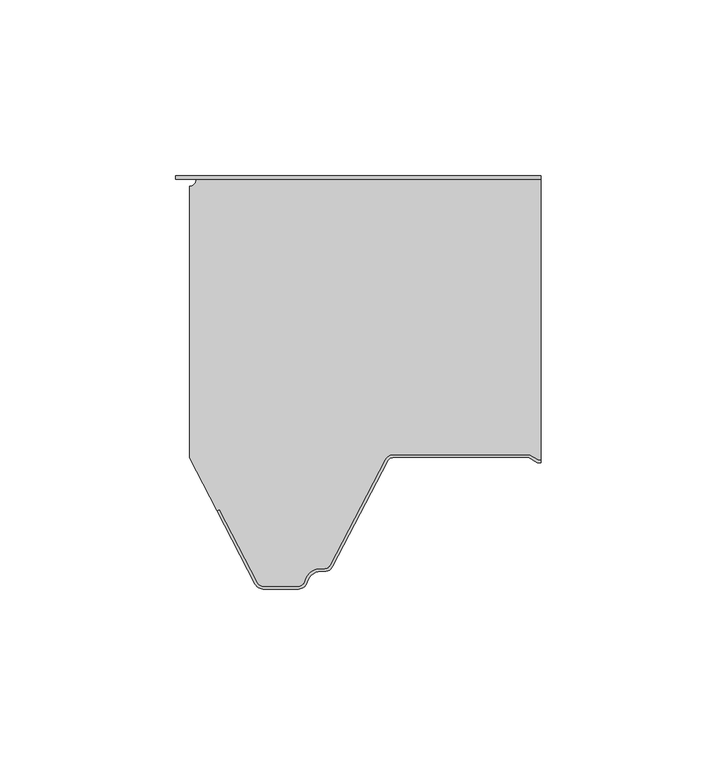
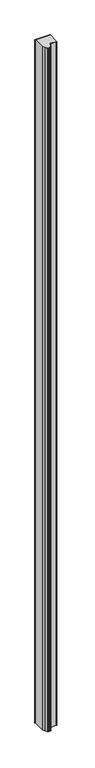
"""IFC4 building model written with IfcOpenShell, lengths in millimetres: plate geometry, Paneles-Sándwich-Madera_PALDR-H_Curtain-Panel : PALDR H 80/10."""

import ifcopenshell
import ifcopenshell.guid

model = None  # the IFC model being written
_history = None  # IfcOwnerHistory: only IFC2X3 demands one
_inside = {}  # id of a spatial element -> (the spatial element, [elements in it])
_under = {}  # id of a project, library or spatial element -> (it, [spatial elements below it])
_declared = {}  # id of a project -> (the project, [libraries it declares])
_typed = {}  # id of a type object -> (the type object, [elements of that type])
_made_of = {}  # id of a material, layer set ... -> (it, [elements and type objects made of it])


def new_model(schema):
    """Start an empty IFC model of exactly this schema.

    Asked for "IFC4X3", IfcOpenShell would pick the latest addendum, in which some entities
    have other attributes; the version numbers below select the first issue.
    IFC2X3 requires an IfcOwnerHistory on every rooted entity: one is made here for all.
    """
    global model, _history
    if schema == "IFC4X3":
        model = ifcopenshell.file(schema_version=(4, 3, 0, 0))
    else:
        model = ifcopenshell.file(schema=schema)
    _inside.clear()
    _under.clear()
    _declared.clear()
    _typed.clear()
    _made_of.clear()
    _history = None
    if model.schema == "IFC2X3":
        org = make("IfcOrganization", Name="unknown")
        user = make(
            "IfcPersonAndOrganization",
            ThePerson=make("IfcPerson", FamilyName="unknown"),
            TheOrganization=org,
        )
        app = make(
            "IfcApplication",
            ApplicationDeveloper=org,
            Version="unknown",
            ApplicationFullName="unknown",
            ApplicationIdentifier="unknown",
        )
        _history = make(
            "IfcOwnerHistory",
            OwningUser=user,
            OwningApplication=app,
            ChangeAction="ADDED",
            CreationDate=0,
        )
    return model


def make(cls, **values):
    """One entity of the class cls with the attributes given. An attribute that is None is left unset."""
    return model.create_entity(
        cls, **{name: value for name, value in values.items() if value is not None}
    )


def rooted(cls, **values):
    """An entity with a GlobalId (a new one), such as an element, a storey or a relation."""
    return make(cls, GlobalId=ifcopenshell.guid.new(), OwnerHistory=_history, **values)


def si_unit(unit_type, name, prefix=None):
    """IfcSIUnit, for example si_unit("LENGTHUNIT", "METRE", prefix="MILLI")."""
    return make("IfcSIUnit", UnitType=unit_type, Prefix=prefix, Name=name)


def assignment(units):
    """IfcUnitAssignment: the units of a project."""
    return None if units is None else make("IfcUnitAssignment", Units=units)


def point(xyz):
    """IfcCartesianPoint."""
    return None if xyz is None else make("IfcCartesianPoint", Coordinates=xyz)


def direction(xyz):
    """IfcDirection."""
    return None if xyz is None else make("IfcDirection", DirectionRatios=xyz)


def frame(location, z_axis=None, x_axis=None):
    """IfcAxis2Placement3D, a coordinate frame: its origin and axes. An axis left out is left unset."""
    return make(
        "IfcAxis2Placement3D",
        Location=point(location),
        Axis=direction(z_axis),
        RefDirection=direction(x_axis),
    )


def origin():
    """The frame at (0, 0, 0) with its axes left unset."""
    return frame((0.0, 0.0, 0.0))


def origin_with_axes():
    """The frame at (0, 0, 0) with the z axis (0, 0, 1) and the x axis (1, 0, 0) written out."""
    return frame((0.0, 0.0, 0.0), z_axis=(0.0, 0.0, 1.0), x_axis=(1.0, 0.0, 0.0))


def place(relative_to, where):
    """IfcLocalPlacement: puts the frame where relative to a parent placement (None: the world)."""
    return make(
        "IfcLocalPlacement", PlacementRelTo=relative_to, RelativePlacement=where
    )


def context(
    kind, dimensions, precision=None, world=None, true_north=None, identifier=None
):
    """IfcGeometricRepresentationContext, for example the 3D "Model" context."""
    return make(
        "IfcGeometricRepresentationContext",
        ContextIdentifier=identifier,
        ContextType=kind,
        CoordinateSpaceDimension=dimensions,
        Precision=precision,
        WorldCoordinateSystem=world,
        TrueNorth=true_north,
    )


def project(units=None, contexts=None):
    """IfcProject with its units and contexts."""
    return rooted(
        "IfcProject",
        Name="project",
        RepresentationContexts=contexts,
        UnitsInContext=assignment(units),
    )


def spatial(cls, under=None, at=None, **own):
    """A site, building, storey or space (cls), placed at a placement, below another one or the project."""
    s = rooted(cls, ObjectPlacement=at, **own)
    if under is not None:
        _under.setdefault(under.id(), (under, []))[1].append(s)
    return s


def polyline(points):
    """IfcPolyline through the points."""
    return make("IfcPolyline", Points=[point(p) for p in points])


def circle_curve(where, radius):
    """IfcCircle in the frame where."""
    return make("IfcCircle", Position=where, Radius=radius)


def outline(outer, holes=None, kind="AREA"):
    """IfcArbitraryClosedProfileDef: a profile drawn as a closed curve; with holes, ...WithVoids."""
    if holes is None:
        return make("IfcArbitraryClosedProfileDef", ProfileType=kind, OuterCurve=outer)
    return make(
        "IfcArbitraryProfileDefWithVoids",
        ProfileType=kind,
        OuterCurve=outer,
        InnerCurves=holes,
    )


def extrude(swept, where, along, depth):
    """IfcExtrudedAreaSolid: the profile swept, set in the frame where, extruded along a direction by depth."""
    return make(
        "IfcExtrudedAreaSolid",
        SweptArea=swept,
        Position=where,
        ExtrudedDirection=direction(along),
        Depth=depth,
    )


def shape(context_of_items, identifier, shape_type, items):
    """IfcShapeRepresentation: the items that make up one representation, for example the "Body"."""
    return make(
        "IfcShapeRepresentation",
        ContextOfItems=context_of_items,
        RepresentationIdentifier=identifier,
        RepresentationType=shape_type,
        Items=items,
    )


def source(mapping_origin, context_of_items, identifier, shape_type, items):
    """IfcRepresentationMap: a shape defined once, which mapped items show again and again."""
    return make(
        "IfcRepresentationMap",
        MappingOrigin=mapping_origin,
        MappedRepresentation=shape(context_of_items, identifier, shape_type, items),
    )


def transform(
    local_origin,
    x_axis=None,
    y_axis=None,
    z_axis=None,
    scale=None,
    scale2=None,
    scale3=None,
    uniform=True,
):
    """IfcCartesianTransformationOperator3D, or its non-uniform kind. x_axis, y_axis, z_axis: its Axis1, 2, 3."""
    if uniform:
        return make(
            "IfcCartesianTransformationOperator3D",
            Axis1=direction(x_axis),
            Axis2=direction(y_axis),
            LocalOrigin=point(local_origin),
            Scale=scale,
            Axis3=direction(z_axis),
        )
    return make(
        "IfcCartesianTransformationOperator3DnonUniform",
        Axis1=direction(x_axis),
        Axis2=direction(y_axis),
        LocalOrigin=point(local_origin),
        Scale=scale,
        Axis3=direction(z_axis),
        Scale2=scale2,
        Scale3=scale3,
    )


def mapped(mapping_source, mapping_target):
    """IfcMappedItem: shows the shape of a source again, moved by a transform."""
    return make(
        "IfcMappedItem", MappingSource=mapping_source, MappingTarget=mapping_target
    )


def made_of(thing, what):
    """Note that an element or type object is made of a material, layer set ...; save() writes the relation."""
    if what is not None:
        _made_of.setdefault(what.id(), (what, []))[1].append(thing)
    return thing


def element(
    cls,
    number,
    at=None,
    inside=None,
    cuts=None,
    type_object=None,
    material=None,
    context=None,
    identifier="Body",
    shape_type=None,
    held_by="IfcProductDefinitionShape",
    body=None,
    shapes=None,
    **own,
):
    """One element of the class cls, such as IfcWall. Its Tag is "e" and its number.

    at: its placement. inside: the storey or other place that contains it. cuts: it is an
    opening in that element (IfcRelVoidsElement). A single representation is given by context,
    identifier, shape_type and body (its items); several are given by shapes. held_by: the class
    of the entity that holds the representations. save() writes the other relations.
    """
    e = rooted(cls, Tag="e%d" % number, ObjectPlacement=at, **own)
    if body is not None:
        shapes = [shape(context, identifier, shape_type, body)]
    if shapes is not None:
        e.Representation = make(held_by, Representations=shapes)
    if inside is not None:
        _inside.setdefault(inside.id(), (inside, []))[1].append(e)
    if cuts is not None:
        rooted(
            "IfcRelVoidsElement", RelatingBuildingElement=cuts, RelatedOpeningElement=e
        )
    if type_object is not None:
        _typed.setdefault(type_object.id(), (type_object, []))[1].append(e)
    return made_of(e, material)


def aggregate(whole, parts):
    """IfcRelAggregates: a whole, such as a stair, and the parts it consists of."""
    return rooted("IfcRelAggregates", RelatingObject=whole, RelatedObjects=parts)


def save(model, path):
    """Write the relations noted so far, then the file.

    IfcRelAggregates (storeys below a building ...), IfcRelContainedInSpatialStructure (elements
    in a storey), IfcRelDefinesByType, IfcRelAssociatesMaterial and IfcRelDeclares: one each for
    every whole, place, type object, material and project.
    """
    for whole, parts in _under.values():
        aggregate(whole, parts)
    for where, things in _inside.values():
        rooted(
            "IfcRelContainedInSpatialStructure",
            RelatedElements=things,
            RelatingStructure=where,
        )
    for kind, things in _typed.values():
        rooted("IfcRelDefinesByType", RelatedObjects=things, RelatingType=kind)
    for what, things in _made_of.values():
        rooted("IfcRelAssociatesMaterial", RelatedObjects=things, RelatingMaterial=what)
    for by, libraries in _declared.values():
        rooted("IfcRelDeclares", RelatingContext=by, RelatedDefinitions=libraries)
    model.write(path)


def plane_surface(at):
    """IfcPlane: the flat surface through the origin of the frame at, square to its z axis."""
    return make("IfcPlane", Position=at)


def cylinder_surface(at, radius):
    """IfcCylindricalSurface: all points at the distance radius from the z axis of the frame at."""
    return make("IfcCylindricalSurface", Position=at, Radius=radius)


def revolved_surface(curve, axis_point, axis_direction):
    """IfcSurfaceOfRevolution: the curve turned about the line through axis_point along axis_direction."""
    return make(
        "IfcSurfaceOfRevolution",
        SweptCurve=make("IfcArbitraryOpenProfileDef", ProfileType="CURVE", Curve=curve),
        AxisPosition=make("IfcAxis1Placement", Location=point(axis_point), Axis=direction(axis_direction)),
    )


def advanced_brep(points, edges, surfaces, faces):
    """IfcAdvancedBrep: a solid bounded by faces that lie on surfaces and meet in shared edges.

    An edge is (start, end): straight between two places in points (the first is 0);
    or (start, end, curve); or (start, end, curve, False) where it runs against its curve.
    A face is (place in surfaces, loops), or (place, loops, False) where it looks against
    its surface's normal. A loop lists edges by number (the first is 1), with a minus sign
    where the edge is run from its end to its start. The first loop is the outer one.
    """
    corners = [point(p) for p in points]
    vertices = [make("IfcVertexPoint", VertexGeometry=c) for c in corners]
    made = []
    for start, end, *more in edges:
        made.append(
            make(
                "IfcEdgeCurve",
                EdgeStart=vertices[start],
                EdgeEnd=vertices[end],
                EdgeGeometry=more[0] if more else make("IfcPolyline", Points=[corners[start], corners[end]]),
                SameSense=more[1] if len(more) > 1 else True,
            )
        )
    hull = []
    for where, loops, *sense in faces:
        bounds = []
        for j, loop in enumerate(loops):
            ring = [make("IfcOrientedEdge", EdgeElement=made[abs(k) - 1], Orientation=k > 0) for k in loop]
            bounds.append(
                make(
                    "IfcFaceOuterBound" if j == 0 else "IfcFaceBound",
                    Bound=make("IfcEdgeLoop", EdgeList=ring),
                    Orientation=True,
                )
            )
        hull.append(make("IfcAdvancedFace", Bounds=bounds, FaceSurface=surfaces[where], SameSense=sense[0] if sense else True))
    return make("IfcAdvancedBrep", Outer=make("IfcClosedShell", CfsFaces=hull))


def plate_013d1d16(model_context):
    return source(origin(), model_context, "Body", "SolidModel", [
        extrude(outline(polyline([(-53.88, -1.0), (-53.88, 0.0), (50.0, 0.0), (50.0, -1.0), (-53.88, -1.0)])), origin_with_axes(), (0.0, 0.0, 1.0), 5000.0),
        advanced_brep(
        [(-30.6207387, -115.6314818, 0.0), (-41.4414179, -94.855778, 0.0), (-42.1509492, -95.2253256, 0.0), (-50.0, -80.1551481, 0.0), (-50.0, -2.95, 0.0), (-48.05, -1.0, 0.0), (50.0, -1.0, 0.0), (50.0, -80.7, 0.0), (49.2107961, -80.7, 0.0), (46.6127185, -79.2, 0.0), (8.090871, -79.2, 0.0), (5.6075115, -80.7065836, 0.0), (-9.9783733, -110.6314825, 0.0), (-11.574819, -111.6, 0.0), (-12.6272901, -111.6, 0.0), (-17.2841077, -115.2363636, 0.0), (-19.030414, -116.5999997, 0.0), (-29.024293, -116.5999997, 0.0), (-30.6207383, -115.6314813, 5000.0), (-29.024293, -116.5999997, 5000.0), (-19.030414, -116.5999997, 5000.0), (-17.2841077, -115.2363636, 5000.0), (-12.6272901, -111.6, 5000.0), (-11.574819, -111.6, 5000.0), (-9.9783737, -110.631482, 5000.0), (5.6075107, -80.7065835, 5000.0), (8.090871, -79.2, 5000.0), (46.6127185, -79.2, 5000.0), (49.2107961, -80.7, 5000.0), (50.0, -80.7, 5000.0), (50.0, -1.0, 5000.0), (-48.05, -1.0, 5000.0), (-50.0, -2.95, 5000.0), (-50.0, -80.1551481, 5000.0), (-42.1509492, -95.2253256, 5000.0), (-41.4414179, -94.855778, 5000.0)],
        [
            (0, 1),
            (1, 2),
            (2, 3),
            (3, 4),
            (4, 5, circle_curve(frame((-50.0, -1.0, 0.0), z_axis=(0.0, 0.0, 1.0), x_axis=(-1.0, 0.0, 0.0)), 1.95)),
            (5, 6),
            (6, 7),
            (7, 8),
            (8, 9),
            (9, 10),
            (10, 11, circle_curve(frame((8.090871, -82.0, 0.0), z_axis=(0.0, 0.0, 1.0), x_axis=(-1.0, 0.0, 0.0)), 2.8)),
            (11, 12),
            (12, 13, circle_curve(frame((-11.574819, -109.8, 0.0), z_axis=(0.0, 0.0, -1.0), x_axis=(-1.0, 0.0, 0.0)), 1.8)),
            (13, 14),
            (14, 15, circle_curve(frame((-12.6272901, -116.4, 0.0), z_axis=(0.0, 0.0, 1.0), x_axis=(-1.0, 0.0, 0.0)), 4.8)),
            (15, 16, circle_curve(frame((-19.030414, -114.8, 0.0), z_axis=(0.0, 0.0, -1.0), x_axis=(-1.0, 0.0, 0.0)), 1.7999997)),
            (16, 17),
            (17, 0, circle_curve(frame((-29.024293, -114.8, 0.0), z_axis=(0.0, 0.0, -1.0), x_axis=(-1.0, 0.0, 0.0)), 1.7999997)),
            (18, 19, circle_curve(frame((-29.024293, -114.8, 5000.0), z_axis=(0.0, 0.0, 1.0), x_axis=(-1.0, 0.0, 0.0)), 1.7999997)),
            (19, 20),
            (20, 21, circle_curve(frame((-19.030414, -114.8, 5000.0), z_axis=(0.0, 0.0, 1.0), x_axis=(-1.0, 0.0, 0.0)), 1.7999997)),
            (21, 22, circle_curve(frame((-12.6272901, -116.4, 5000.0), z_axis=(0.0, 0.0, -1.0), x_axis=(-1.0, 0.0, 0.0)), 4.8)),
            (22, 23),
            (23, 24, circle_curve(frame((-11.574819, -109.8, 5000.0), z_axis=(0.0, 0.0, 1.0), x_axis=(-1.0, 0.0, 0.0)), 1.8)),
            (24, 25),
            (25, 26, circle_curve(frame((8.090871, -82.0, 5000.0), z_axis=(0.0, 0.0, -1.0), x_axis=(-1.0, 0.0, 0.0)), 2.8)),
            (26, 27),
            (27, 28),
            (28, 29),
            (29, 30),
            (30, 31),
            (31, 32, circle_curve(frame((-50.0, -1.0, 5000.0), z_axis=(0.0, 0.0, -1.0), x_axis=(-1.0, 0.0, 0.0)), 1.95)),
            (32, 33),
            (33, 34),
            (34, 35),
            (35, 18),
            (0, 18),
            (35, 1),
            (34, 2),
            (33, 3),
            (32, 4),
            (5, 31),
            (30, 6),
            (28, 8),
            (7, 29),
            (27, 9),
            (26, 10),
            (25, 11),
            (24, 12),
            (23, 13),
            (22, 14),
            (21, 15),
            (20, 16),
            (19, 17),
        ],
        [
            plane_surface(frame((-50.0, 0.0, 0.0), z_axis=(0.0, 0.0, -1.0), x_axis=(0.0, 1.0, 0.0))),
            plane_surface(frame((-50.0, 0.0, 5000.0), z_axis=(0.0, 0.0, 1.0), x_axis=(0.0, 1.0, 0.0))),
            plane_surface(frame((-30.6207387, -115.6314818, 0.0), z_axis=(-0.8869140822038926, -0.4619344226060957, 0.0), x_axis=(0.0, 0.0, 1.0))),
            plane_surface(frame((-41.4414179, -94.855778, 0.0), z_axis=(0.4619344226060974, -0.8869140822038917, 0.0), x_axis=(0.0, 0.0, 1.0))),
            plane_surface(frame((-42.1509492, -95.2253256, 0.0), z_axis=(-0.8869140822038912, -0.46193442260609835, 0.0), x_axis=(0.0, 0.0, 1.0))),
            plane_surface(frame((-50.0, -80.1551481, 0.0), z_axis=(-1.0, 0.0, 0.0), x_axis=(0.0, 0.0, 1.0))),
            plane_surface(frame((-48.05, -1.0, 0.0), z_axis=(0.0, 1.0, 0.0), x_axis=(0.0, 0.0, 1.0))),
            plane_surface(frame((81.5859248, -80.7, 0.0), z_axis=(0.0, -1.0, 0.0), x_axis=(0.0, 0.0, 1.0))),
            plane_surface(frame((49.2107961, -80.7, 0.0), z_axis=(-0.49999979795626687, -0.866025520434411, 0.0), x_axis=(0.0, 0.0, 1.0))),
            plane_surface(frame((46.6127185, -79.2, 0.0), z_axis=(0.0, -1.0, 0.0), x_axis=(0.0, 0.0, 1.0))),
            revolved_surface(polyline([(5.290871, -82.0, 5000.0), (5.290871, -82.0, 0.0)]), (8.090871, -82.0, 0.0), (0.0, 0.0, 1.0)),
            plane_surface(frame((5.6075107, -80.7065835, 0.0), z_axis=(0.8869140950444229, -0.4619343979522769, 0.0), x_axis=(0.0, 0.0, 1.0))),
            cylinder_surface(frame((-11.574819, -109.8, 0.0), z_axis=(0.0, 0.0, -1.0), x_axis=(-1.0, 0.0, 0.0)), 1.8),
            plane_surface(frame((-11.574819, -111.6, 0.0), z_axis=(0.0, -1.0, 0.0), x_axis=(0.0, 0.0, 1.0))),
            revolved_surface(polyline([(-17.4272901, -116.4, 5000.0), (-17.4272901, -116.4, 0.0)]), (-12.6272901, -116.4, 0.0), (0.0, 0.0, 1.0)),
            cylinder_surface(frame((-19.030414, -114.8, 0.0), z_axis=(0.0, 0.0, -1.0), x_axis=(-1.0, 0.0, 0.0)), 1.7999997),
            plane_surface(frame((-19.030414, -116.5999997, 0.0), z_axis=(0.0, -1.0, 0.0), x_axis=(0.0, 0.0, 1.0))),
            cylinder_surface(frame((-29.024293, -114.8, 0.0), z_axis=(0.0, 0.0, -1.0), x_axis=(-1.0, 0.0, 0.0)), 1.7999997),
            revolved_surface(polyline([(-51.95, -1.0, 5000.0), (-51.95, -1.0, 0.0)]), (-50.0, -1.0, 0.0), (0.0, 0.0, 1.0)),
            plane_surface(frame((50.0, 0.0, 5000.0), z_axis=(1.0, 0.0, 0.0), x_axis=(0.0, 0.0, -1.0))),
        ],
        [
            (0, [[1, 2, 3, 4, 5, 6, 7, 8, 9, 10, 11, 12, 13, 14, 15, 16, 17, 18]]),
            (1, [[19, 20, 21, 22, 23, 24, 25, 26, 27, 28, 29, 30, 31, 32, 33, 34, 35, 36]]),
            (2, [[-1, 37, -36, 38]]),
            (3, [[-2, -38, -35, 39]]),
            (4, [[-3, -39, -34, 40]]),
            (5, [[-4, -40, -33, 41]]),
            (6, [[42, -31, 43, -6]]),
            (7, [[44, -8, 45, -29]]),
            (8, [[-9, -44, -28, 46]]),
            (9, [[-10, -46, -27, 47]]),
            (10, [[-11, -47, -26, 48]]),
            (11, [[-12, -48, -25, 49]]),
            (12, [[-13, -49, -24, 50]]),
            (13, [[-14, -50, -23, 51]]),
            (14, [[-15, -51, -22, 52]]),
            (15, [[-16, -52, -21, 53]]),
            (16, [[-17, -53, -20, 54]]),
            (17, [[-18, -54, -19, -37]]),
            (18, [[-5, -41, -32, -42]]),
            (19, [[-7, -43, -30, -45]]),
        ],
    ),
        advanced_brep(
        [(49.2107962, -80.7, 5000.0), (46.6127186, -79.2, 5000.0), (8.090871, -79.2, 5000.0), (5.6075116, -80.7065836, 5000.0), (-9.9783733, -110.6314825, 5000.0), (-11.574819, -111.6, 5000.0), (-12.62729, -111.6, 5000.0), (-17.2841076, -115.2363636, 5000.0), (-19.030414, -116.6, 5000.0), (-29.024293, -116.6, 5000.0), (-30.6207383, -115.631482, 5000.0), (-41.4404688, -94.8576004, 5000.0), (-42.15, -95.227148, 5000.0), (-31.33027, -116.00103, 5000.0), (-29.024293, -117.4, 5000.0), (-19.030414, -117.4, 5000.0), (-16.5079711, -115.4303031, 5000.0), (-12.62729, -112.4, 5000.0), (-11.574819, -112.4, 5000.0), (-9.2688424, -111.0010295, 5000.0), (6.317042, -81.076131, 5000.0), (8.090871, -80.0, 5000.0), (46.3983593, -80.0, 5000.0), (48.9964369, -81.5, 5000.0), (50.0, -81.5, 5000.0), (50.0, -80.7, 5000.0), (48.9964369, -81.5, 0.0), (46.3983593, -80.0, 0.0), (8.090871, -80.0, 0.0), (6.3170428, -81.0761312, 0.0), (-9.268842, -111.00103, 0.0), (-11.574819, -112.4, 0.0), (-12.62729, -112.4, 0.0), (-16.5079713, -115.430303, 0.0), (-19.030414, -117.4, 0.0), (-29.024293, -117.4, 0.0), (-31.3302696, -116.0010295, 0.0), (-42.15, -95.227148, 0.0), (-41.4404688, -94.8576004, 0.0), (-30.6207387, -115.6314825, 0.0), (-29.024293, -116.6, 0.0), (-19.030414, -116.6, 0.0), (-17.2841074, -115.2363637, 0.0), (-12.62729, -111.6, 0.0), (-11.574819, -111.6, 0.0), (-9.9783737, -110.631482, 0.0), (5.6075107, -80.7065835, 0.0), (8.090871, -79.2, 0.0), (46.6127186, -79.2, 0.0), (49.2107962, -80.7, 0.0), (50.0, -80.7, 0.0), (50.0, -81.5, 0.0)],
        [
            (0, 1),
            (1, 2),
            (2, 3, circle_curve(frame((8.090871, -82.0, 5000.0), z_axis=(0.0, 0.0, 1.0), x_axis=(1.0, 0.0, 0.0)), 2.8)),
            (3, 4),
            (4, 5, circle_curve(frame((-11.574819, -109.8, 5000.0), z_axis=(0.0, 0.0, -1.0), x_axis=(1.0, 0.0, 0.0)), 1.8)),
            (5, 6),
            (6, 7, circle_curve(frame((-12.62729, -116.4, 5000.0), z_axis=(0.0, 0.0, 1.0), x_axis=(1.0, 0.0, 0.0)), 4.8)),
            (7, 8, circle_curve(frame((-19.030414, -114.8, 5000.0), z_axis=(0.0, 0.0, -1.0), x_axis=(1.0, 0.0, 0.0)), 1.8)),
            (8, 9),
            (9, 10, circle_curve(frame((-29.024293, -114.8, 5000.0), z_axis=(0.0, 0.0, -1.0), x_axis=(1.0, 0.0, 0.0)), 1.8)),
            (10, 11),
            (11, 12),
            (12, 13),
            (13, 14, circle_curve(frame((-29.024293, -114.8, 5000.0), z_axis=(0.0, 0.0, 1.0), x_axis=(1.0, 0.0, 0.0)), 2.6)),
            (14, 15),
            (15, 16, circle_curve(frame((-19.030414, -114.8, 5000.0), z_axis=(0.0, 0.0, 1.0), x_axis=(1.0, 0.0, 0.0)), 2.6)),
            (16, 17, circle_curve(frame((-12.62729, -116.4, 5000.0), z_axis=(0.0, 0.0, -1.0), x_axis=(1.0, 0.0, 0.0)), 4.0)),
            (17, 18),
            (18, 19, circle_curve(frame((-11.574819, -109.8, 5000.0), z_axis=(0.0, 0.0, 1.0), x_axis=(1.0, 0.0, 0.0)), 2.6)),
            (19, 20),
            (20, 21, circle_curve(frame((8.090871, -82.0, 5000.0), z_axis=(0.0, 0.0, -1.0), x_axis=(1.0, 0.0, 0.0)), 2.0)),
            (21, 22),
            (22, 23),
            (23, 24),
            (24, 25),
            (25, 0),
            (26, 27),
            (27, 28),
            (28, 29, circle_curve(frame((8.090871, -82.0, 0.0), z_axis=(0.0, 0.0, 1.0), x_axis=(1.0, 0.0, 0.0)), 2.0)),
            (29, 30),
            (30, 31, circle_curve(frame((-11.574819, -109.8, 0.0), z_axis=(0.0, 0.0, -1.0), x_axis=(1.0, 0.0, 0.0)), 2.6)),
            (31, 32),
            (32, 33, circle_curve(frame((-12.62729, -116.4, 0.0), z_axis=(0.0, 0.0, 1.0), x_axis=(1.0, 0.0, 0.0)), 4.0)),
            (33, 34, circle_curve(frame((-19.030414, -114.8, 0.0), z_axis=(0.0, 0.0, -1.0), x_axis=(1.0, 0.0, 0.0)), 2.6)),
            (34, 35),
            (35, 36, circle_curve(frame((-29.024293, -114.8, 0.0), z_axis=(0.0, 0.0, -1.0), x_axis=(1.0, 0.0, 0.0)), 2.6)),
            (36, 37),
            (37, 38),
            (38, 39),
            (39, 40, circle_curve(frame((-29.024293, -114.8, 0.0), z_axis=(0.0, 0.0, 1.0), x_axis=(1.0, 0.0, 0.0)), 1.8)),
            (40, 41),
            (41, 42, circle_curve(frame((-19.030414, -114.8, 0.0), z_axis=(0.0, 0.0, 1.0), x_axis=(1.0, 0.0, 0.0)), 1.8)),
            (42, 43, circle_curve(frame((-12.62729, -116.4, 0.0), z_axis=(0.0, 0.0, -1.0), x_axis=(1.0, 0.0, 0.0)), 4.8)),
            (43, 44),
            (44, 45, circle_curve(frame((-11.574819, -109.8, 0.0), z_axis=(0.0, 0.0, 1.0), x_axis=(1.0, 0.0, 0.0)), 1.8)),
            (45, 46),
            (46, 47, circle_curve(frame((8.090871, -82.0, 0.0), z_axis=(0.0, 0.0, -1.0), x_axis=(1.0, 0.0, 0.0)), 2.8)),
            (47, 48),
            (48, 49),
            (49, 50),
            (50, 51),
            (51, 26),
            (49, 0),
            (25, 50),
            (48, 1),
            (47, 2),
            (46, 3),
            (45, 4),
            (44, 5),
            (43, 6),
            (42, 7),
            (41, 8),
            (40, 9),
            (39, 10),
            (38, 11),
            (37, 12),
            (36, 13),
            (35, 14),
            (34, 15),
            (33, 16),
            (32, 17),
            (31, 18),
            (30, 19),
            (29, 20),
            (28, 21),
            (27, 22),
            (26, 23),
            (51, 24),
        ],
        [
            plane_surface(frame((-50.0, -80.0, 5000.0), z_axis=(0.0, 0.0, 1.0), x_axis=(0.0, 1.0, 0.0))),
            plane_surface(frame((-50.0, -80.0, 0.0), z_axis=(0.0, 0.0, -1.0), x_axis=(0.0, 1.0, 0.0))),
            plane_surface(frame((81.5859248, -80.7, 5000.0), z_axis=(0.0, 1.0, 0.0), x_axis=(0.0, 0.0, -1.0))),
            plane_surface(frame((49.2107962, -80.7, 5000.0), z_axis=(0.4999997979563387, 0.8660255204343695, 0.0), x_axis=(0.0, 0.0, -1.0))),
            plane_surface(frame((46.6127186, -79.2, 5000.0), z_axis=(0.0, 1.0, 0.0), x_axis=(0.0, 0.0, -1.0))),
            cylinder_surface(frame((8.090871, -82.0, 5000.0), z_axis=(0.0, 0.0, 1.0), x_axis=(1.0, 0.0, 0.0)), 2.8),
            plane_surface(frame((5.6075107, -80.7065835, 5000.0), z_axis=(-0.8869140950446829, 0.4619343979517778, 0.0), x_axis=(0.0, 0.0, -1.0))),
            revolved_surface(polyline([(-9.774818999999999, -109.8, 0.0), (-9.774818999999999, -109.8, 5000.0)]), (-11.574819, -109.8, 5000.0), (0.0, 0.0, -1.0)),
            plane_surface(frame((-11.574819, -111.6, 5000.0), z_axis=(0.0, 1.0, 0.0), x_axis=(0.0, 0.0, -1.0))),
            cylinder_surface(frame((-12.62729, -116.4, 5000.0), z_axis=(0.0, 0.0, 1.0), x_axis=(1.0, 0.0, 0.0)), 4.8),
            revolved_surface(polyline([(-17.230414, -114.8, 0.0), (-17.230414, -114.8, 5000.0)]), (-19.030414, -114.8, 5000.0), (0.0, 0.0, -1.0)),
            plane_surface(frame((-19.030414, -116.6, 5000.0), z_axis=(0.0, 1.0, 0.0), x_axis=(0.0, 0.0, -1.0))),
            revolved_surface(polyline([(-27.224293, -114.8, 0.0), (-27.224293, -114.8, 5000.0)]), (-29.024293, -114.8, 5000.0), (0.0, 0.0, -1.0)),
            plane_surface(frame((-30.6207387, -115.6314825, 5000.0), z_axis=(0.8869140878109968, 0.46193441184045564, 0.0), x_axis=(0.0, 0.0, -1.0))),
            plane_surface(frame((-41.4404688, -94.8576004, 5000.0), z_axis=(-0.46193450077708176, 0.8869140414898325, 0.0), x_axis=(0.0, 0.0, -1.0))),
            plane_surface(frame((-42.15, -95.227148, 5000.0), z_axis=(-0.8869140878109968, -0.46193441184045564, 0.0), x_axis=(0.0, 0.0, -1.0))),
            cylinder_surface(frame((-29.024293, -114.8, 5000.0), z_axis=(0.0, 0.0, 1.0), x_axis=(1.0, 0.0, 0.0)), 2.6),
            plane_surface(frame((-29.024293, -117.4, 5000.0), z_axis=(0.0, -1.0, 0.0), x_axis=(0.0, 0.0, -1.0))),
            cylinder_surface(frame((-19.030414, -114.8, 5000.0), z_axis=(0.0, 0.0, 1.0), x_axis=(1.0, 0.0, 0.0)), 2.6),
            revolved_surface(polyline([(-8.62729, -116.4, 0.0), (-8.62729, -116.4, 5000.0)]), (-12.62729, -116.4, 5000.0), (0.0, 0.0, -1.0)),
            plane_surface(frame((-12.62729, -112.4, 5000.0), z_axis=(0.0, -1.0, 0.0), x_axis=(0.0, 0.0, -1.0))),
            cylinder_surface(frame((-11.574819, -109.8, 5000.0), z_axis=(0.0, 0.0, 1.0), x_axis=(1.0, 0.0, 0.0)), 2.6),
            plane_surface(frame((-9.268842, -111.00103, 5000.0), z_axis=(0.8869140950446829, -0.4619343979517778, 0.0), x_axis=(0.0, 0.0, -1.0))),
            revolved_surface(polyline([(10.090871, -82.0, 0.0), (10.090871, -82.0, 5000.0)]), (8.090871, -82.0, 5000.0), (0.0, 0.0, -1.0)),
            plane_surface(frame((8.090871, -80.0, 5000.0), z_axis=(0.0, -1.0, 0.0), x_axis=(0.0, 0.0, -1.0))),
            plane_surface(frame((46.3983593, -80.0, 5000.0), z_axis=(-0.4999997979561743, -0.8660255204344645, 0.0), x_axis=(0.0, 0.0, -1.0))),
            plane_surface(frame((48.9964369, -81.5, 5000.0), z_axis=(0.0, -1.0, 0.0), x_axis=(0.0, 0.0, -1.0))),
            plane_surface(frame((50.0, 0.0, 5000.0), z_axis=(1.0, 0.0, 0.0), x_axis=(0.0, 0.0, -1.0))),
        ],
        [
            (0, [[1, 2, 3, 4, 5, 6, 7, 8, 9, 10, 11, 12, 13, 14, 15, 16, 17, 18, 19, 20, 21, 22, 23, 24, 25, 26]]),
            (1, [[27, 28, 29, 30, 31, 32, 33, 34, 35, 36, 37, 38, 39, 40, 41, 42, 43, 44, 45, 46, 47, 48, 49, 50, 51, 52]]),
            (2, [[53, -26, 54, -50]]),
            (3, [[-1, -53, -49, 55]]),
            (4, [[-2, -55, -48, 56]]),
            (5, [[-3, -56, -47, 57]]),
            (6, [[-4, -57, -46, 58]]),
            (7, [[-5, -58, -45, 59]]),
            (8, [[-6, -59, -44, 60]]),
            (9, [[-7, -60, -43, 61]]),
            (10, [[-8, -61, -42, 62]]),
            (11, [[-9, -62, -41, 63]]),
            (12, [[-10, -63, -40, 64]]),
            (13, [[-11, -64, -39, 65]]),
            (14, [[-12, -65, -38, 66]]),
            (15, [[-13, -66, -37, 67]]),
            (16, [[-14, -67, -36, 68]]),
            (17, [[-15, -68, -35, 69]]),
            (18, [[-16, -69, -34, 70]]),
            (19, [[-17, -70, -33, 71]]),
            (20, [[-18, -71, -32, 72]]),
            (21, [[-19, -72, -31, 73]]),
            (22, [[-20, -73, -30, 74]]),
            (23, [[-21, -74, -29, 75]]),
            (24, [[-22, -75, -28, 76]]),
            (25, [[-23, -76, -27, 77]]),
            (26, [[-77, -52, 78, -24]]),
            (27, [[-25, -78, -51, -54]]),
        ],
    ),
    ])


if __name__ == "__main__":
    model = new_model("IFC4")
    model_context = context("Model", 3, world=origin())
    ifc_project = project(units=[si_unit("LENGTHUNIT", "METRE", prefix="MILLI")], contexts=[model_context])
    site = spatial("IfcSite", under=ifc_project)
    building = spatial("IfcBuilding", under=site)
    placement = place(None, origin())
    plate_shape = plate_013d1d16(model_context)
    element("IfcPlate", 1, ObjectType="Paneles-Sándwich-Madera_PALDR-H_Curtain-Panel : PALDR H 80/10", at=placement, inside=building, context=model_context, shape_type="MappedRepresentation", body=[
        mapped(plate_shape, transform((0.0, 0.0, 0.0), x_axis=(1.0, 0.0, 0.0), y_axis=(0.0, 1.0, 0.0), z_axis=(0.0, 0.0, 1.0))),
    ])
    save(model, "model.ifc")
